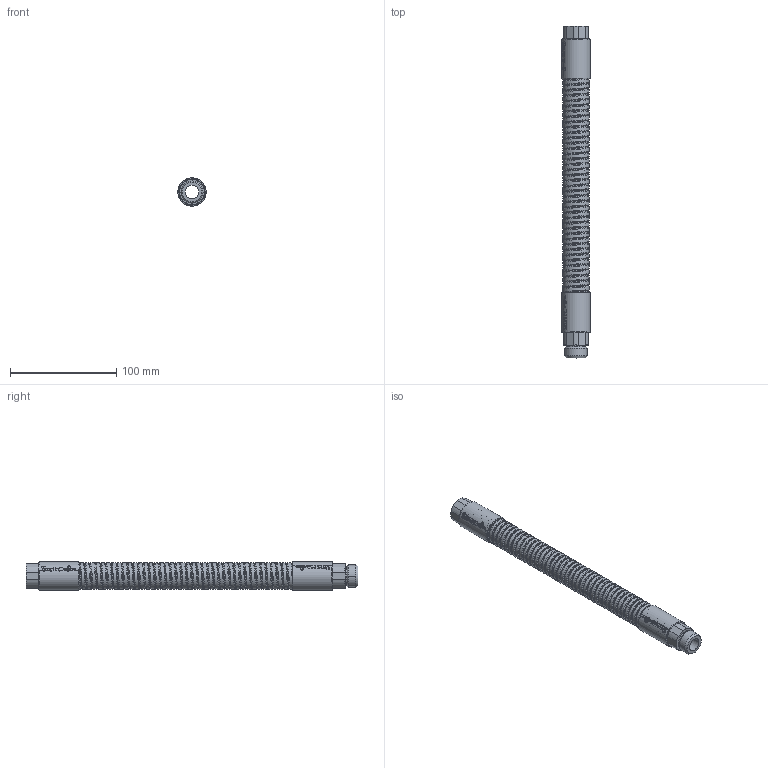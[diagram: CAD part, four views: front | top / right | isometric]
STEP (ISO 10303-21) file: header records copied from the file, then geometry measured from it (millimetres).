
FILE_DESCRIPTION (( 'STEP AP203' ), '1' );
FILE_NAME ('FB12-300.STEP', '2019-09-09T09:08:41', ( '' ), ( '' ), 'SwSTEP 2.0', 'SolidWorks 2016', '' );
FILE_SCHEMA (( 'CONFIG_CONTROL_DESIGN' ));
Length unit declared in the file: millimetre
Products named in the file (1): FB12-300
Bounding box: 26.45 x 312 x 26.45 mm (x, y, z)
Surface area: 54577.4 mm2 (no closed solid volume)
Topology: 0 solids, 6 shells, 132 faces, 1447 edges, 1328 vertices
Faces by surface type: cylinder 72, plane 20, cone 20, torus 14, bspline 6
Entity records: 38803 total; most frequent: CARTESIAN_POINT 30175, ORIENTED_EDGE 2838, EDGE_CURVE 1447, VERTEX_POINT 1328, B_SPLINE_CURVE_WITH_KNOTS 1218, DIRECTION 586, AXIS2_PLACEMENT_3D 237, EDGE_LOOP 148
